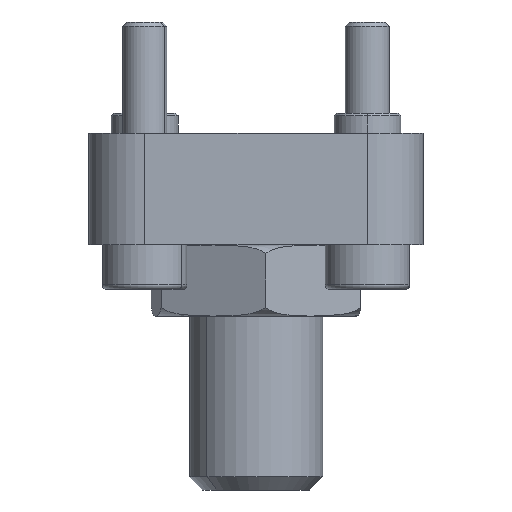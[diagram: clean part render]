
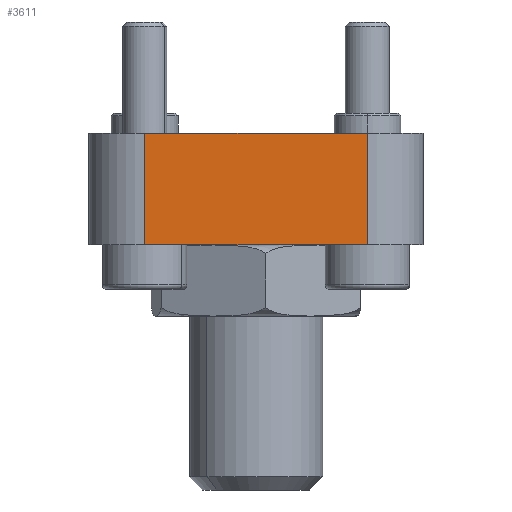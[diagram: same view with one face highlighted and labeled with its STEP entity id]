
A CAD part, front view. The second image highlights one B-rep face of the part: STEP entity #3611.
In plain terms, the highlighted planar face has unit normal (0, -1, 0).
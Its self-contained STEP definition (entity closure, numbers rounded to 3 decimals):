
#233 = EDGE_CURVE ( 'NONE', #4849, #2966, #3724, .T. ) ;
#253 = DIRECTION ( 'NONE',  ( 0., 1., 0. ) ) ;
#448 = CARTESIAN_POINT ( 'NONE',  ( -5., -12.5, 5. ) ) ;
#648 = PLANE ( 'NONE',  #4870 ) ;
#747 = EDGE_LOOP ( 'NONE', ( #3591, #2444, #3759, #4258 ) ) ;
#897 = LINE ( 'NONE', #1791, #5129 ) ;
#1007 = CARTESIAN_POINT ( 'NONE',  ( -5., -12.5, 0. ) ) ;
#1035 = LINE ( 'NONE', #1238, #1767 ) ;
#1148 = DIRECTION ( 'NONE',  ( 0., 0., 1. ) ) ;
#1160 = EDGE_CURVE ( 'NONE', #4849, #4964, #897, .T. ) ;
#1238 = CARTESIAN_POINT ( 'NONE',  ( 5., -12.5, 5. ) ) ;
#1743 = VECTOR ( 'NONE', #2144, 1000. ) ;
#1767 = VECTOR ( 'NONE', #3399, 1000. ) ;
#1791 = CARTESIAN_POINT ( 'NONE',  ( -5., -12.5, 5. ) ) ;
#2144 = DIRECTION ( 'NONE',  ( 1., 0., 0. ) ) ;
#2444 = ORIENTED_EDGE ( 'NONE', *, *, #3074, .F. ) ;
#2539 = VECTOR ( 'NONE', #4146, 1000. ) ;
#2705 = LINE ( 'NONE', #2982, #1743 ) ;
#2966 = VERTEX_POINT ( 'NONE', #5077 ) ;
#2982 = CARTESIAN_POINT ( 'NONE',  ( -5., -12.5, 0. ) ) ;
#3074 = EDGE_CURVE ( 'NONE', #2966, #4386, #1035, .T. ) ;
#3134 = CARTESIAN_POINT ( 'NONE',  ( -5., -12.5, 5. ) ) ;
#3399 = DIRECTION ( 'NONE',  ( 0., 0., -1. ) ) ;
#3591 = ORIENTED_EDGE ( 'NONE', *, *, #4807, .T. ) ;
#3611 = ADVANCED_FACE ( 'NONE', ( #3677 ), #648, .F. ) ;
#3677 = FACE_OUTER_BOUND ( 'NONE', #747, .T. ) ;
#3724 = LINE ( 'NONE', #4902, #2539 ) ;
#3759 = ORIENTED_EDGE ( 'NONE', *, *, #233, .F. ) ;
#4059 = DIRECTION ( 'NONE',  ( 0., 0., -1. ) ) ;
#4146 = DIRECTION ( 'NONE',  ( 1., 0., 0. ) ) ;
#4258 = ORIENTED_EDGE ( 'NONE', *, *, #1160, .T. ) ;
#4386 = VERTEX_POINT ( 'NONE', #4603 ) ;
#4603 = CARTESIAN_POINT ( 'NONE',  ( 5., -12.5, 0. ) ) ;
#4807 = EDGE_CURVE ( 'NONE', #4964, #4386, #2705, .T. ) ;
#4849 = VERTEX_POINT ( 'NONE', #3134 ) ;
#4870 = AXIS2_PLACEMENT_3D ( 'NONE', #448, #253, #1148 ) ;
#4902 = CARTESIAN_POINT ( 'NONE',  ( -5., -12.5, 5. ) ) ;
#4964 = VERTEX_POINT ( 'NONE', #1007 ) ;
#5077 = CARTESIAN_POINT ( 'NONE',  ( 5., -12.5, 5. ) ) ;
#5129 = VECTOR ( 'NONE', #4059, 1000. ) ;
